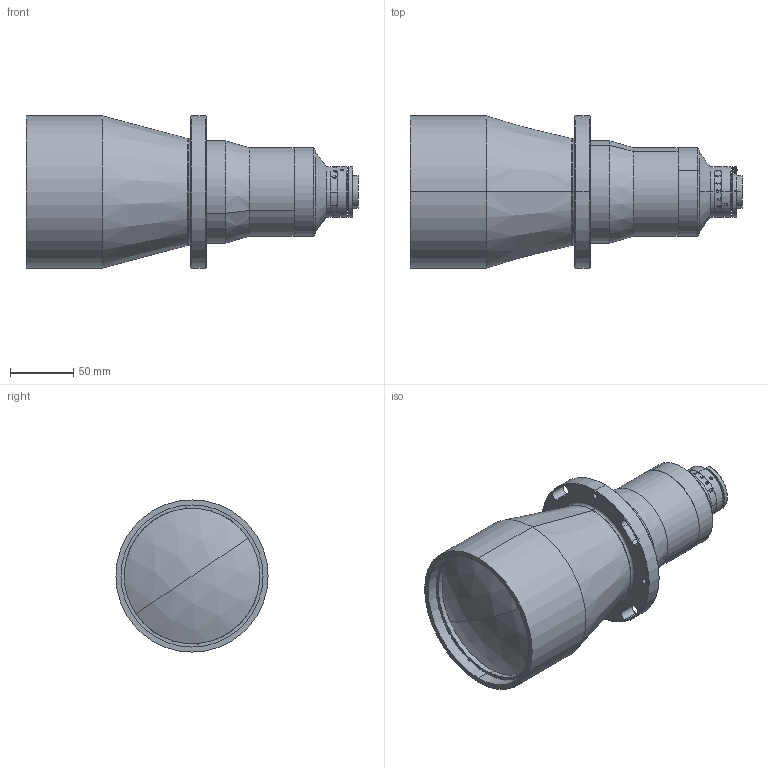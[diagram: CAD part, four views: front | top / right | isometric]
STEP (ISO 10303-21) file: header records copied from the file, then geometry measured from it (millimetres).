
FILE_DESCRIPTION (( 'STEP AP203' ), '1' );
FILE_NAME ('XF-PTL09208-C-(HD).STEP', '2019-02-19T07:18:23', ( 'puyufan' ), ( '' ), 'SwSTEP 2.0', 'SolidWorks 2014', '' );
FILE_SCHEMA (( 'CONFIG_CONTROL_DESIGN' ));
Length unit declared in the file: millimetre
Products named in the file (1): XF-PTL09208-C-(HD)
Bounding box: 261.83 x 120 x 120 mm (x, y, z)
Surface area: 117869.5 mm2 (no closed solid volume)
Topology: 0 solids, 28 shells, 169 faces, 933 edges, 795 vertices
Faces by surface type: cylinder 96, plane 38, torus 17, cone 16, sphere 2
Entity records: 15079 total; most frequent: CARTESIAN_POINT 8076, DIRECTION 1371, ORIENTED_EDGE 1246, EDGE_CURVE 933, VERTEX_POINT 795, AXIS2_PLACEMENT_3D 544, CIRCLE 374, LINE 283
